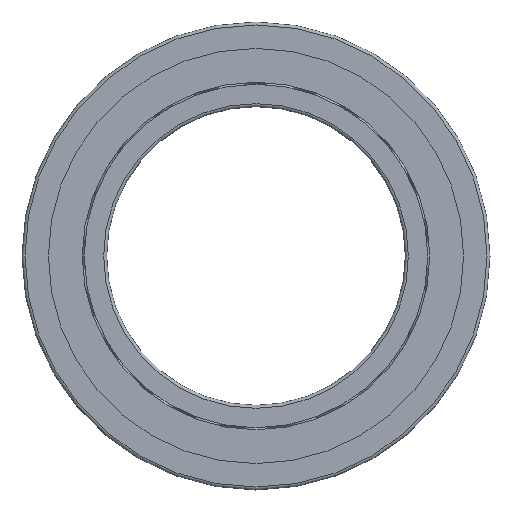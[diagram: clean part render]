
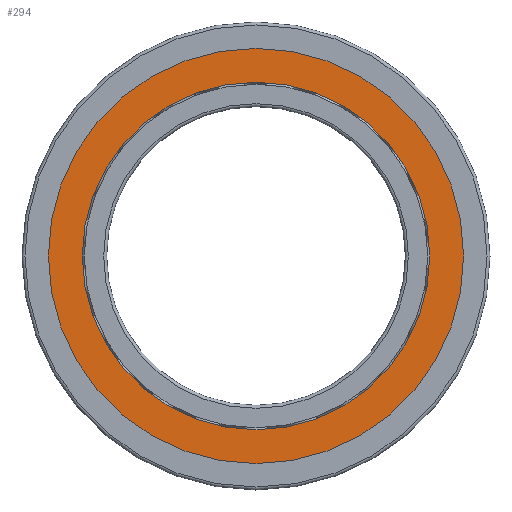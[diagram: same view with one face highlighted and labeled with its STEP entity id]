
A CAD part, left-side view. The second image highlights one B-rep face of the part: STEP entity #294.
In plain terms, the highlighted planar face has unit normal (-1, 0, 0).
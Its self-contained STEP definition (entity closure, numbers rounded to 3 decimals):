
#240=PLANE('',#1072);
#294=ADVANCED_FACE('',(#385,#386),#240,.F.);
#385=FACE_BOUND('',#559,.T.);
#386=FACE_BOUND('',#560,.T.);
#559=EDGE_LOOP('',(#711));
#560=EDGE_LOOP('',(#712));
#711=ORIENTED_EDGE('',*,*,#953,.F.);
#712=ORIENTED_EDGE('',*,*,#951,.T.);
#853=VERTEX_POINT('',#1404);
#855=VERTEX_POINT('',#1409);
#951=EDGE_CURVE('',#853,#853,#1027,.T.);
#953=EDGE_CURVE('',#855,#855,#1029,.T.);
#1027=CIRCLE('',#1068,20.85);
#1029=CIRCLE('',#1071,17.45);
#1068=AXIS2_PLACEMENT_3D('',#1403,#1194,#1195);
#1071=AXIS2_PLACEMENT_3D('',#1408,#1200,#1201);
#1072=AXIS2_PLACEMENT_3D('',#1410,#1202,#1203);
#1194=DIRECTION('',(-1.,0.,0.));
#1195=DIRECTION('',(0.,0.,1.));
#1200=DIRECTION('',(-1.,0.,0.));
#1201=DIRECTION('',(0.,0.,1.));
#1202=DIRECTION('',(1.,0.,0.));
#1203=DIRECTION('',(0.,0.,-1.));
#1403=CARTESIAN_POINT('',(0.1,0.,0.));
#1404=CARTESIAN_POINT('',(0.1,0.,20.85));
#1408=CARTESIAN_POINT('',(0.1,0.,0.));
#1409=CARTESIAN_POINT('',(0.1,0.,17.45));
#1410=CARTESIAN_POINT('',(0.1,0.,20.85));
